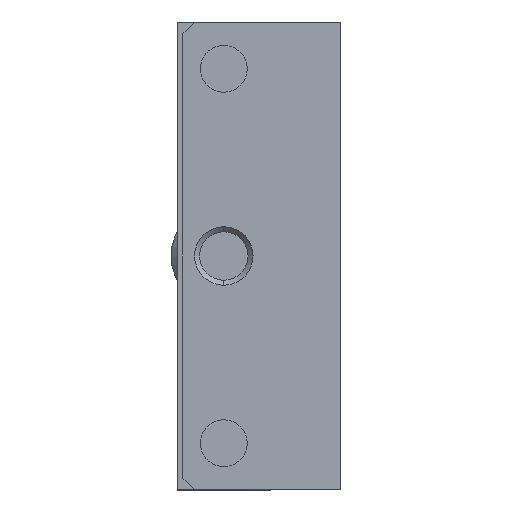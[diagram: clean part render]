
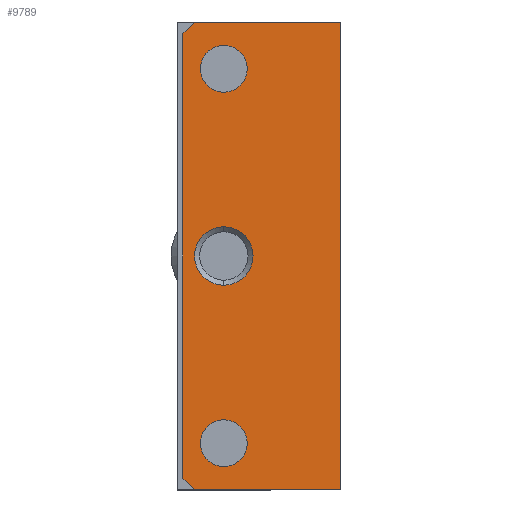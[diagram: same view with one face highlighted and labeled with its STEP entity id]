
A CAD part, left-side view. The second image highlights one B-rep face of the part: STEP entity #9789.
In plain terms, the highlighted planar face has unit normal (-1, 0, 0).
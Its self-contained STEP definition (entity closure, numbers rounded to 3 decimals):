
#55 = LINE ( 'NONE', #4679, #2398 ) ;
#107 = CARTESIAN_POINT ( 'NONE',  ( -15., 13.5, -19. ) ) ;
#408 = LINE ( 'NONE', #6364, #8864 ) ;
#516 = CARTESIAN_POINT ( 'NONE',  ( -15., 10., 14. ) ) ;
#596 = DIRECTION ( 'NONE',  ( 0., -0.707, -0.707 ) ) ;
#789 = DIRECTION ( 'NONE',  ( 0., 0., 1. ) ) ;
#843 = ORIENTED_EDGE ( 'NONE', *, *, #9806, .T. ) ;
#1167 = CARTESIAN_POINT ( 'NONE',  ( -15., 10., 18. ) ) ;
#1278 = DIRECTION ( 'NONE',  ( 1., 0., 0. ) ) ;
#1436 = DIRECTION ( 'NONE',  ( 0., 0., -1. ) ) ;
#1444 = VERTEX_POINT ( 'NONE', #14961 ) ;
#1466 = CARTESIAN_POINT ( 'NONE',  ( -15., 0., 20. ) ) ;
#1548 = ORIENTED_EDGE ( 'NONE', *, *, #10018, .F. ) ;
#1553 = LINE ( 'NONE', #6333, #6433 ) ;
#1816 = CARTESIAN_POINT ( 'NONE',  ( -15., 0., 20. ) ) ;
#2365 = AXIS2_PLACEMENT_3D ( 'NONE', #8013, #10361, #789 ) ;
#2397 = VERTEX_POINT ( 'NONE', #516 ) ;
#2398 = VECTOR ( 'NONE', #13068, 1000. ) ;
#2650 = ORIENTED_EDGE ( 'NONE', *, *, #13976, .F. ) ;
#2785 = ORIENTED_EDGE ( 'NONE', *, *, #7443, .F. ) ;
#2788 = EDGE_CURVE ( 'NONE', #12448, #4106, #3760, .T. ) ;
#2927 = AXIS2_PLACEMENT_3D ( 'NONE', #9542, #9778, #3735 ) ;
#3106 = VERTEX_POINT ( 'NONE', #9298 ) ;
#3385 = CIRCLE ( 'NONE', #4170, 2. ) ;
#3735 = DIRECTION ( 'NONE',  ( 0., 0., -1. ) ) ;
#3760 = CIRCLE ( 'NONE', #6267, 2. ) ;
#3864 = ORIENTED_EDGE ( 'NONE', *, *, #11955, .F. ) ;
#3891 = ORIENTED_EDGE ( 'NONE', *, *, #7421, .T. ) ;
#4011 = DIRECTION ( 'NONE',  ( 0., 1., 0. ) ) ;
#4106 = VERTEX_POINT ( 'NONE', #7340 ) ;
#4170 = AXIS2_PLACEMENT_3D ( 'NONE', #9311, #12836, #13846 ) ;
#4262 = VERTEX_POINT ( 'NONE', #14469 ) ;
#4433 = DIRECTION ( 'NONE',  ( 0., 0., 1. ) ) ;
#4630 = CARTESIAN_POINT ( 'NONE',  ( -15., 10., -2.5 ) ) ;
#4679 = CARTESIAN_POINT ( 'NONE',  ( -15., 12.5, 20. ) ) ;
#5871 = ORIENTED_EDGE ( 'NONE', *, *, #14664, .T. ) ;
#6166 = VECTOR ( 'NONE', #14573, 1000. ) ;
#6192 = VERTEX_POINT ( 'NONE', #4630 ) ;
#6267 = AXIS2_PLACEMENT_3D ( 'NONE', #12823, #12742, #4433 ) ;
#6290 = FACE_BOUND ( 'NONE', #7601, .T. ) ;
#6333 = CARTESIAN_POINT ( 'NONE',  ( -15., 13.5, -19. ) ) ;
#6364 = CARTESIAN_POINT ( 'NONE',  ( -15., 13.5, -20. ) ) ;
#6386 = ORIENTED_EDGE ( 'NONE', *, *, #2788, .F. ) ;
#6394 = VERTEX_POINT ( 'NONE', #6637 ) ;
#6432 = ORIENTED_EDGE ( 'NONE', *, *, #14060, .F. ) ;
#6433 = VECTOR ( 'NONE', #596, 1000. ) ;
#6594 = EDGE_CURVE ( 'NONE', #11591, #3106, #1553, .T. ) ;
#6611 = ORIENTED_EDGE ( 'NONE', *, *, #6594, .T. ) ;
#6637 = CARTESIAN_POINT ( 'NONE',  ( -15., 0., -20. ) ) ;
#6689 = DIRECTION ( 'NONE',  ( 0., 0., -1. ) ) ;
#6931 = VECTOR ( 'NONE', #6689, 1000. ) ;
#7169 = CARTESIAN_POINT ( 'NONE',  ( -15., 10., 0. ) ) ;
#7171 = EDGE_LOOP ( 'NONE', ( #3864, #8290 ) ) ;
#7340 = CARTESIAN_POINT ( 'NONE',  ( -15., 10., -18. ) ) ;
#7351 = LINE ( 'NONE', #8455, #13690 ) ;
#7398 = PLANE ( 'NONE',  #8372 ) ;
#7421 = EDGE_CURVE ( 'NONE', #4262, #6192, #12719, .T. ) ;
#7443 = EDGE_CURVE ( 'NONE', #11591, #1444, #7351, .T. ) ;
#7601 = EDGE_LOOP ( 'NONE', ( #3891, #843 ) ) ;
#8013 = CARTESIAN_POINT ( 'NONE',  ( -15., 10., 16. ) ) ;
#8163 = AXIS2_PLACEMENT_3D ( 'NONE', #14339, #9331, #9404 ) ;
#8290 = ORIENTED_EDGE ( 'NONE', *, *, #10541, .F. ) ;
#8291 = DIRECTION ( 'NONE',  ( 0., 0., 1. ) ) ;
#8343 = FACE_OUTER_BOUND ( 'NONE', #8927, .T. ) ;
#8372 = AXIS2_PLACEMENT_3D ( 'NONE', #9753, #14528, #13115 ) ;
#8455 = CARTESIAN_POINT ( 'NONE',  ( -15., 13.5, 20. ) ) ;
#8553 = EDGE_LOOP ( 'NONE', ( #6386, #6432 ) ) ;
#8618 = LINE ( 'NONE', #12141, #6166 ) ;
#8864 = VECTOR ( 'NONE', #4011, 1000. ) ;
#8927 = EDGE_LOOP ( 'NONE', ( #2785, #6611, #1548, #2650, #15434, #5871 ) ) ;
#9044 = LINE ( 'NONE', #1816, #6931 ) ;
#9298 = CARTESIAN_POINT ( 'NONE',  ( -15., 12.5, -20. ) ) ;
#9311 = CARTESIAN_POINT ( 'NONE',  ( -15., 10., -16. ) ) ;
#9331 = DIRECTION ( 'NONE',  ( -1., 0., 0. ) ) ;
#9404 = DIRECTION ( 'NONE',  ( 0., 0., 1. ) ) ;
#9542 = CARTESIAN_POINT ( 'NONE',  ( -15., 10., 0. ) ) ;
#9753 = CARTESIAN_POINT ( 'NONE',  ( -15., 0., 0. ) ) ;
#9778 = DIRECTION ( 'NONE',  ( 1., 0., 0. ) ) ;
#9789 = ADVANCED_FACE ( 'NONE', ( #6290, #14295, #12173, #8343 ), #7398, .F. ) ;
#9806 = EDGE_CURVE ( 'NONE', #6192, #4262, #14406, .T. ) ;
#9875 = CIRCLE ( 'NONE', #2365, 2. ) ;
#10018 = EDGE_CURVE ( 'NONE', #6394, #3106, #408, .T. ) ;
#10361 = DIRECTION ( 'NONE',  ( -1., 0., 0. ) ) ;
#10541 = EDGE_CURVE ( 'NONE', #2397, #11664, #9875, .T. ) ;
#11591 = VERTEX_POINT ( 'NONE', #107 ) ;
#11664 = VERTEX_POINT ( 'NONE', #1167 ) ;
#11955 = EDGE_CURVE ( 'NONE', #11664, #2397, #12912, .T. ) ;
#12141 = CARTESIAN_POINT ( 'NONE',  ( -15., 13.5, 20. ) ) ;
#12173 = FACE_BOUND ( 'NONE', #8553, .T. ) ;
#12448 = VERTEX_POINT ( 'NONE', #14502 ) ;
#12510 = EDGE_CURVE ( 'NONE', #15365, #15318, #8618, .T. ) ;
#12719 = CIRCLE ( 'NONE', #2927, 2.5 ) ;
#12742 = DIRECTION ( 'NONE',  ( -1., 0., 0. ) ) ;
#12823 = CARTESIAN_POINT ( 'NONE',  ( -15., 10., -16. ) ) ;
#12836 = DIRECTION ( 'NONE',  ( -1., 0., 0. ) ) ;
#12912 = CIRCLE ( 'NONE', #8163, 2. ) ;
#13068 = DIRECTION ( 'NONE',  ( 0., 0.707, -0.707 ) ) ;
#13115 = DIRECTION ( 'NONE',  ( 0., 0., -1. ) ) ;
#13690 = VECTOR ( 'NONE', #8291, 1000. ) ;
#13846 = DIRECTION ( 'NONE',  ( 0., 0., 1. ) ) ;
#13976 = EDGE_CURVE ( 'NONE', #15318, #6394, #9044, .T. ) ;
#14060 = EDGE_CURVE ( 'NONE', #4106, #12448, #3385, .T. ) ;
#14295 = FACE_BOUND ( 'NONE', #7171, .T. ) ;
#14339 = CARTESIAN_POINT ( 'NONE',  ( -15., 10., 16. ) ) ;
#14368 = AXIS2_PLACEMENT_3D ( 'NONE', #7169, #1278, #1436 ) ;
#14406 = CIRCLE ( 'NONE', #14368, 2.5 ) ;
#14469 = CARTESIAN_POINT ( 'NONE',  ( -15., 10., 2.5 ) ) ;
#14502 = CARTESIAN_POINT ( 'NONE',  ( -15., 10., -14. ) ) ;
#14528 = DIRECTION ( 'NONE',  ( 1., 0., 0. ) ) ;
#14573 = DIRECTION ( 'NONE',  ( 0., -1., 0. ) ) ;
#14664 = EDGE_CURVE ( 'NONE', #15365, #1444, #55, .T. ) ;
#14961 = CARTESIAN_POINT ( 'NONE',  ( -15., 13.5, 19. ) ) ;
#15092 = CARTESIAN_POINT ( 'NONE',  ( -15., 12.5, 20. ) ) ;
#15318 = VERTEX_POINT ( 'NONE', #1466 ) ;
#15365 = VERTEX_POINT ( 'NONE', #15092 ) ;
#15434 = ORIENTED_EDGE ( 'NONE', *, *, #12510, .F. ) ;
